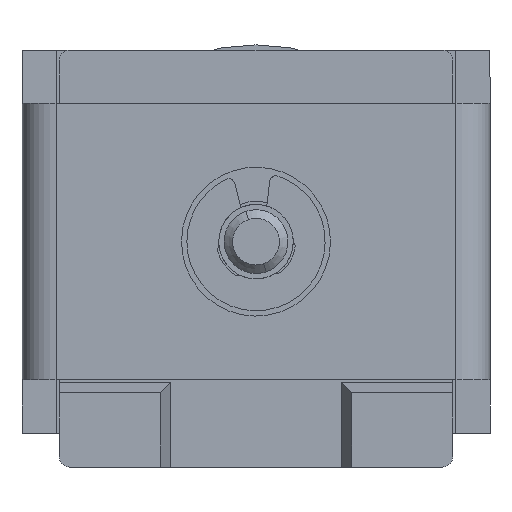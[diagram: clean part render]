
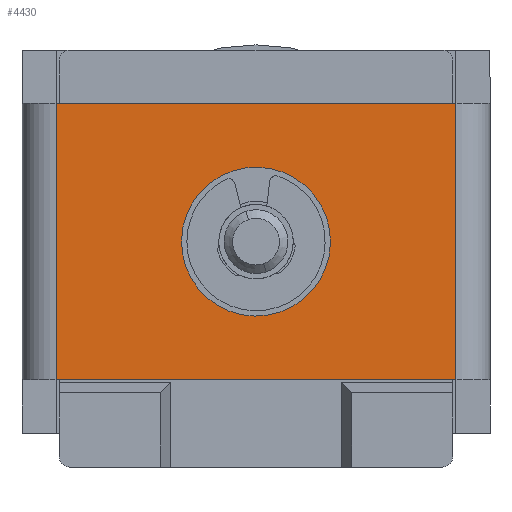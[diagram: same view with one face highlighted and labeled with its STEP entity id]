
A CAD part, front view. The second image highlights one B-rep face of the part: STEP entity #4430.
In plain terms, the highlighted planar face has unit normal (0, -1, 0).
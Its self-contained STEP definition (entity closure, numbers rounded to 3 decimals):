
#6 = VECTOR ( 'NONE', #2282, 1000. ) ;
#37 = DIRECTION ( 'NONE',  ( -1., 0., 0. ) ) ;
#87 = CARTESIAN_POINT ( 'NONE',  ( 9.4, -27., -2.5 ) ) ;
#106 = CARTESIAN_POINT ( 'NONE',  ( 0., -27., -11.5 ) ) ;
#580 = ORIENTED_EDGE ( 'NONE', *, *, #6150, .T. ) ;
#651 = AXIS2_PLACEMENT_3D ( 'NONE', #5943, #1800, #6628 ) ;
#986 = FACE_BOUND ( 'NONE', #7445, .T. ) ;
#1184 = DIRECTION ( 'NONE',  ( 0., 1., 0. ) ) ;
#1285 = LINE ( 'NONE', #3477, #3801 ) ;
#1677 = DIRECTION ( 'NONE',  ( 0., -1., 0. ) ) ;
#1800 = DIRECTION ( 'NONE',  ( 0., -1., 0. ) ) ;
#1820 = CARTESIAN_POINT ( 'NONE',  ( -9.4, -27., -2.5 ) ) ;
#2056 = EDGE_LOOP ( 'NONE', ( #4799, #580, #2205, #3816 ) ) ;
#2205 = ORIENTED_EDGE ( 'NONE', *, *, #3352, .T. ) ;
#2282 = DIRECTION ( 'NONE',  ( 1., 0., 0. ) ) ;
#2531 = PLANE ( 'NONE',  #8631 ) ;
#2538 = DIRECTION ( 'NONE',  ( 0., 0., -1. ) ) ;
#2724 = VECTOR ( 'NONE', #2538, 1000. ) ;
#2788 = AXIS2_PLACEMENT_3D ( 'NONE', #5822, #1677, #6507 ) ;
#2873 = VERTEX_POINT ( 'NONE', #106 ) ;
#3352 = EDGE_CURVE ( 'NONE', #7821, #5325, #1285, .T. ) ;
#3477 = CARTESIAN_POINT ( 'NONE',  ( 0., -27., -2.5 ) ) ;
#3572 = EDGE_CURVE ( 'NONE', #8446, #6907, #7311, .T. ) ;
#3727 = VERTEX_POINT ( 'NONE', #6020 ) ;
#3801 = VECTOR ( 'NONE', #37, 1000. ) ;
#3816 = ORIENTED_EDGE ( 'NONE', *, *, #5968, .T. ) ;
#4361 = CIRCLE ( 'NONE', #2788, 2.5 ) ;
#4430 = ADVANCED_FACE ( 'NONE', ( #986, #6246 ), #2531, .F. ) ;
#4607 = CARTESIAN_POINT ( 'NONE',  ( -9.4, -27., -15.5 ) ) ;
#4721 = CARTESIAN_POINT ( 'NONE',  ( 9.4, -27., -9. ) ) ;
#4750 = DIRECTION ( 'NONE',  ( 0., 0., 1. ) ) ;
#4799 = ORIENTED_EDGE ( 'NONE', *, *, #3572, .T. ) ;
#4804 = LINE ( 'NONE', #6672, #2724 ) ;
#5141 = CARTESIAN_POINT ( 'NONE',  ( 9.4, -27., -15.5 ) ) ;
#5325 = VERTEX_POINT ( 'NONE', #1820 ) ;
#5336 = VECTOR ( 'NONE', #4750, 1000. ) ;
#5822 = CARTESIAN_POINT ( 'NONE',  ( 0., -27., -9. ) ) ;
#5943 = CARTESIAN_POINT ( 'NONE',  ( 0., -27., -9. ) ) ;
#5968 = EDGE_CURVE ( 'NONE', #5325, #8446, #4804, .T. ) ;
#6011 = DIRECTION ( 'NONE',  ( 0., 0., 1. ) ) ;
#6020 = CARTESIAN_POINT ( 'NONE',  ( 0., -27., -6.5 ) ) ;
#6150 = EDGE_CURVE ( 'NONE', #6907, #7821, #7159, .T. ) ;
#6246 = FACE_OUTER_BOUND ( 'NONE', #2056, .T. ) ;
#6424 = CARTESIAN_POINT ( 'NONE',  ( 0., -27., -15.5 ) ) ;
#6460 = EDGE_CURVE ( 'NONE', #3727, #2873, #7675, .T. ) ;
#6507 = DIRECTION ( 'NONE',  ( 0., 0., 1. ) ) ;
#6628 = DIRECTION ( 'NONE',  ( 0., 0., 1. ) ) ;
#6672 = CARTESIAN_POINT ( 'NONE',  ( -9.4, -27., -9. ) ) ;
#6902 = EDGE_CURVE ( 'NONE', #2873, #3727, #4361, .T. ) ;
#6907 = VERTEX_POINT ( 'NONE', #5141 ) ;
#7159 = LINE ( 'NONE', #4721, #5336 ) ;
#7311 = LINE ( 'NONE', #6424, #6 ) ;
#7445 = EDGE_LOOP ( 'NONE', ( #7774, #8439 ) ) ;
#7675 = CIRCLE ( 'NONE', #651, 2.5 ) ;
#7774 = ORIENTED_EDGE ( 'NONE', *, *, #6460, .F. ) ;
#7821 = VERTEX_POINT ( 'NONE', #87 ) ;
#8439 = ORIENTED_EDGE ( 'NONE', *, *, #6902, .F. ) ;
#8446 = VERTEX_POINT ( 'NONE', #8762 ) ;
#8631 = AXIS2_PLACEMENT_3D ( 'NONE', #4607, #1184, #6011 ) ;
#8762 = CARTESIAN_POINT ( 'NONE',  ( -9.4, -27., -15.5 ) ) ;
